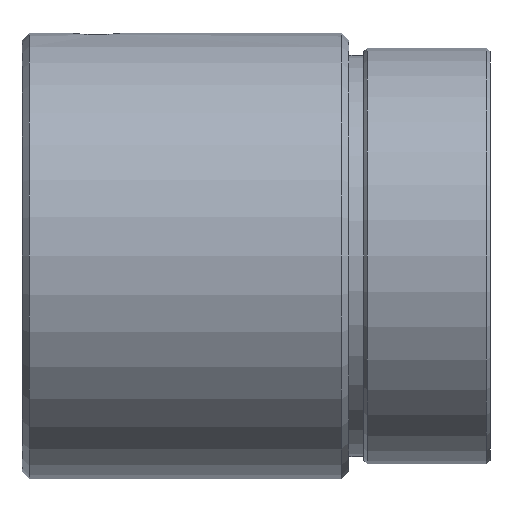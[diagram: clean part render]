
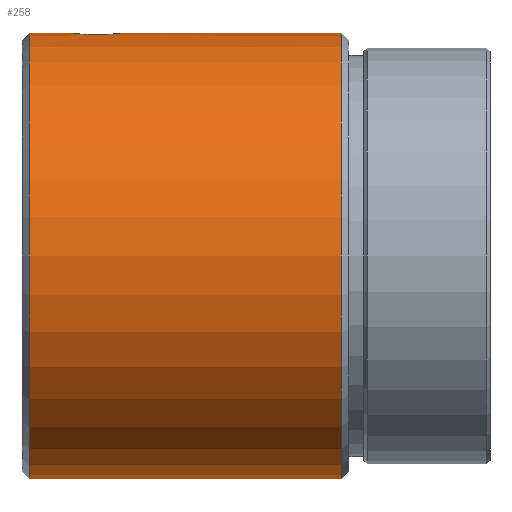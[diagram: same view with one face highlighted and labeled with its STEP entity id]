
A CAD part, front view. The second image highlights one B-rep face of the part: STEP entity #258.
In plain terms, the highlighted cylindrical face has radius 30 mm (diameter 60 mm), a partial arc.
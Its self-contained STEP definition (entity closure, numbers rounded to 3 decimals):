
#7 = LINE ( 'NONE', #50, #874 ) ;
#14 = AXIS2_PLACEMENT_3D ( 'NONE', #166, #666, #243 ) ;
#15 = CARTESIAN_POINT ( 'NONE',  ( 10.456, -3.478, 29.798 ) ) ;
#23 = CARTESIAN_POINT ( 'NONE',  ( 43., 0., 30. ) ) ;
#50 = CARTESIAN_POINT ( 'NONE',  ( -28.983, 0., 30. ) ) ;
#63 = EDGE_CURVE ( 'NONE', #569, #307, #795, .T. ) ;
#74 = CIRCLE ( 'NONE', #14, 30. ) ;
#85 = CARTESIAN_POINT ( 'NONE',  ( 11.126, -3.322, 29.816 ) ) ;
#86 = DIRECTION ( 'NONE',  ( -1., 0., 0. ) ) ;
#103 = EDGE_CURVE ( 'NONE', #462, #307, #7, .T. ) ;
#114 = CARTESIAN_POINT ( 'NONE',  ( 13.144, -1.554, 29.96 ) ) ;
#118 = VERTEX_POINT ( 'NONE', #435 ) ;
#122 = FACE_OUTER_BOUND ( 'NONE', #323, .T. ) ;
#133 = CARTESIAN_POINT ( 'NONE',  ( -28.983, 0., -30. ) ) ;
#153 = CARTESIAN_POINT ( 'NONE',  ( 7.685, -2.635, 29.885 ) ) ;
#156 = AXIS2_PLACEMENT_3D ( 'NONE', #391, #870, #456 ) ;
#158 = CARTESIAN_POINT ( 'NONE',  ( 11.751, -3.039, 29.846 ) ) ;
#166 = CARTESIAN_POINT ( 'NONE',  ( 43., 0., 0. ) ) ;
#173 = LINE ( 'NONE', #133, #304 ) ;
#192 = CARTESIAN_POINT ( 'NONE',  ( 13.387, -0.913, 29.987 ) ) ;
#207 = DIRECTION ( 'NONE',  ( -1., 0., 0. ) ) ;
#220 = CARTESIAN_POINT ( 'NONE',  ( 6.522, -0.456, 29.997 ) ) ;
#234 = CARTESIAN_POINT ( 'NONE',  ( 8.244, -3.037, 29.846 ) ) ;
#237 = CARTESIAN_POINT ( 'NONE',  ( 12.312, -2.638, 29.884 ) ) ;
#243 = DIRECTION ( 'NONE',  ( 0., 0., 1. ) ) ;
#254 = EDGE_CURVE ( 'NONE', #118, #863, #173, .T. ) ;
#258 = ADVANCED_FACE ( 'NONE', ( #122 ), #464, .T. ) ;
#264 = CARTESIAN_POINT ( 'NONE',  ( 13.5, -0.231, 30. ) ) ;
#289 = CARTESIAN_POINT ( 'NONE',  ( 1., 0., -30. ) ) ;
#295 = CARTESIAN_POINT ( 'NONE',  ( 6.679, -1.128, 29.98 ) ) ;
#304 = VECTOR ( 'NONE', #637, 1000. ) ;
#307 = VERTEX_POINT ( 'NONE', #361 ) ;
#308 = CARTESIAN_POINT ( 'NONE',  ( 8.869, -3.32, 29.816 ) ) ;
#311 = CARTESIAN_POINT ( 'NONE',  ( 12.779, -2.139, 29.924 ) ) ;
#323 = EDGE_LOOP ( 'NONE', ( #501, #645, #386, #439, #603, #619 ) ) ;
#324 = VECTOR ( 'NONE', #86, 1000. ) ;
#361 = CARTESIAN_POINT ( 'NONE',  ( 13.5, 0., 30. ) ) ;
#371 = CARTESIAN_POINT ( 'NONE',  ( 6.962, -1.753, 29.949 ) ) ;
#382 = CARTESIAN_POINT ( 'NONE',  ( 9.539, -3.477, 29.798 ) ) ;
#386 = ORIENTED_EDGE ( 'NONE', *, *, #103, .T. ) ;
#391 = CARTESIAN_POINT ( 'NONE',  ( 1., 0., 0. ) ) ;
#402 = EDGE_CURVE ( 'NONE', #569, #882, #424, .T. ) ;
#424 = LINE ( 'NONE', #662, #324 ) ;
#435 = CARTESIAN_POINT ( 'NONE',  ( 43., 0., -30. ) ) ;
#439 = ORIENTED_EDGE ( 'NONE', *, *, #63, .F. ) ;
#447 = CARTESIAN_POINT ( 'NONE',  ( 10.229, -3.5, 29.795 ) ) ;
#450 = EDGE_CURVE ( 'NONE', #118, #462, #74, .T. ) ;
#456 = DIRECTION ( 'NONE',  ( 0., 0., 1. ) ) ;
#462 = VERTEX_POINT ( 'NONE', #23 ) ;
#464 = CYLINDRICAL_SURFACE ( 'NONE', #701, 30. ) ;
#467 = EDGE_CURVE ( 'NONE', #863, #882, #790, .T. ) ;
#491 = CARTESIAN_POINT ( 'NONE',  ( -28.983, 0., 0. ) ) ;
#501 = ORIENTED_EDGE ( 'NONE', *, *, #254, .F. ) ;
#518 = CARTESIAN_POINT ( 'NONE',  ( 10.904, -3.389, 29.808 ) ) ;
#554 = DIRECTION ( 'NONE',  ( -1., 0., 0. ) ) ;
#569 = VERTEX_POINT ( 'NONE', #811 ) ;
#587 = CARTESIAN_POINT ( 'NONE',  ( 7.362, -2.312, 29.911 ) ) ;
#591 = CARTESIAN_POINT ( 'NONE',  ( 11.55, -3.146, 29.835 ) ) ;
#603 = ORIENTED_EDGE ( 'NONE', *, *, #402, .T. ) ;
#619 = ORIENTED_EDGE ( 'NONE', *, *, #467, .F. ) ;
#621 = CARTESIAN_POINT ( 'NONE',  ( 13.319, -1.133, 29.979 ) ) ;
#630 = CARTESIAN_POINT ( 'NONE',  ( 7.218, -2.136, 29.924 ) ) ;
#637 = DIRECTION ( 'NONE',  ( -1., 0., 0. ) ) ;
#645 = ORIENTED_EDGE ( 'NONE', *, *, #450, .T. ) ;
#647 = CARTESIAN_POINT ( 'NONE',  ( 6.5, -0.228, 30. ) ) ;
#658 = CARTESIAN_POINT ( 'NONE',  ( 7.865, -2.782, 29.871 ) ) ;
#660 = CARTESIAN_POINT ( 'NONE',  ( 12.132, -2.785, 29.871 ) ) ;
#662 = CARTESIAN_POINT ( 'NONE',  ( -28.983, 0., 30. ) ) ;
#666 = DIRECTION ( 'NONE',  ( -1., 0., 0. ) ) ;
#690 = CARTESIAN_POINT ( 'NONE',  ( 13.477, -0.46, 29.997 ) ) ;
#701 = AXIS2_PLACEMENT_3D ( 'NONE', #491, #207, #911 ) ;
#717 = CARTESIAN_POINT ( 'NONE',  ( 6.612, -0.908, 29.987 ) ) ;
#732 = CARTESIAN_POINT ( 'NONE',  ( 8.445, -3.144, 29.835 ) ) ;
#734 = CARTESIAN_POINT ( 'NONE',  ( 12.635, -2.315, 29.911 ) ) ;
#763 = CARTESIAN_POINT ( 'NONE',  ( 13.5, 0., 30. ) ) ;
#787 = CARTESIAN_POINT ( 'NONE',  ( 1., 0., 30. ) ) ;
#788 = CARTESIAN_POINT ( 'NONE',  ( 6.5, 0., 30. ) ) ;
#790 = CIRCLE ( 'NONE', #156, 30. ) ;
#791 = CARTESIAN_POINT ( 'NONE',  ( 6.853, -1.55, 29.961 ) ) ;
#795 = B_SPLINE_CURVE_WITH_KNOTS ( 'NONE', 3,
 ( #788, #647, #220, #717, #295, #791, #371, #630, #587, #153, #658, #234, #732, #308, #804, #382, #861, #447, #15, #518, #85, #591, #158, #660, #237, #734, #311, #805, #114, #621, #192, #690, #264, #763 ),
 .UNSPECIFIED., .F., .F.,
 ( 4, 2, 2, 2, 2, 2, 2, 2, 2, 2, 2, 2, 2, 2, 2, 2, 4 ),
 ( 0.011, 0.012, 0.012, 0.013, 0.014, 0.014, 0.015, 0.016, 0.016, 0.017, 0.018, 0.018, 0.019, 0.02, 0.021, 0.021, 0.022 ),
 .UNSPECIFIED. ) ;
#804 = CARTESIAN_POINT ( 'NONE',  ( 9.091, -3.388, 29.808 ) ) ;
#805 = CARTESIAN_POINT ( 'NONE',  ( 13.036, -1.757, 29.949 ) ) ;
#811 = CARTESIAN_POINT ( 'NONE',  ( 6.5, 0., 30. ) ) ;
#861 = CARTESIAN_POINT ( 'NONE',  ( 9.766, -3.5, 29.795 ) ) ;
#863 = VERTEX_POINT ( 'NONE', #289 ) ;
#870 = DIRECTION ( 'NONE',  ( -1., 0., 0. ) ) ;
#874 = VECTOR ( 'NONE', #554, 1000. ) ;
#882 = VERTEX_POINT ( 'NONE', #787 ) ;
#911 = DIRECTION ( 'NONE',  ( 0., 0., 1. ) ) ;
